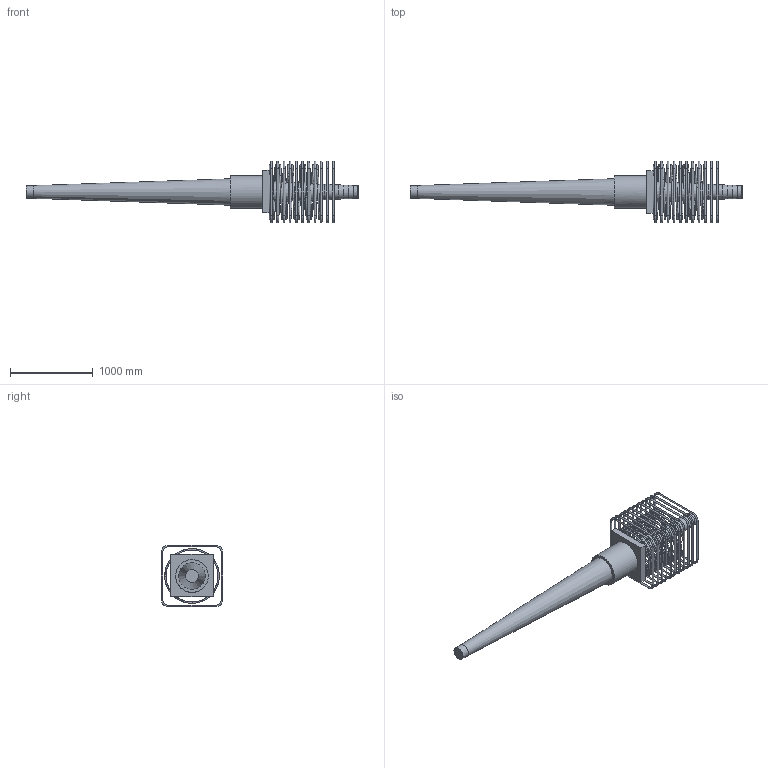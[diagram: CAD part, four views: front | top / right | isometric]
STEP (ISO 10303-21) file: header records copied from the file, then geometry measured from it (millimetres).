
FILE_DESCRIPTION(/* description */ (''),/* implementation_level */ '2;1');
FILE_NAME(/* name */ 'Z:\04 Publications\05 Give-out\BBR\6_3D_Models\BBR VT CONA CMI\BBR VT CONA CMI SP\04206\BBR VT CONA CMI SP 4206_Coupler H Assembly_CS-34,28.stp',/* time_stamp */ '2017-05-09T10:26:14+02:00',/* author */ ('IP'),/* organization */ (''),/* preprocessor_version */ 'ST-DEVELOPER v16.1',/* originating_system */ 'Autodesk Inventor 2016',/* authorisation */ '');
FILE_SCHEMA (('AUTOMOTIVE_DESIGN { 1 0 10303 214 3 1 1 }'));
Products named in the file (1): BBR VT CONA CMI SP 4206_Coupler H Assembly_CS-34,28
Bounding box: 4012 x 745 x 745 mm (x, y, z)
Volume: 228318598.9 mm3; surface area: 6796321.7 mm2
Topology: 13 solids, 13 shells, 819 faces, 2149 edges, 1400 vertices
Faces by surface type: bspline 387, plane 264, cylinder 110, torus 51, cone 7
Full cylindrical faces by diameter (mm): 20 x44, 155 x1, 395 x1
Entity records: 39811 total; most frequent: CARTESIAN_POINT 22176, ORIENTED_EDGE 4090, DIRECTION 2481, EDGE_CURVE 2042, VERTEX_POINT 1397, EDGE_LOOP 994, LINE 917, VECTOR 917
